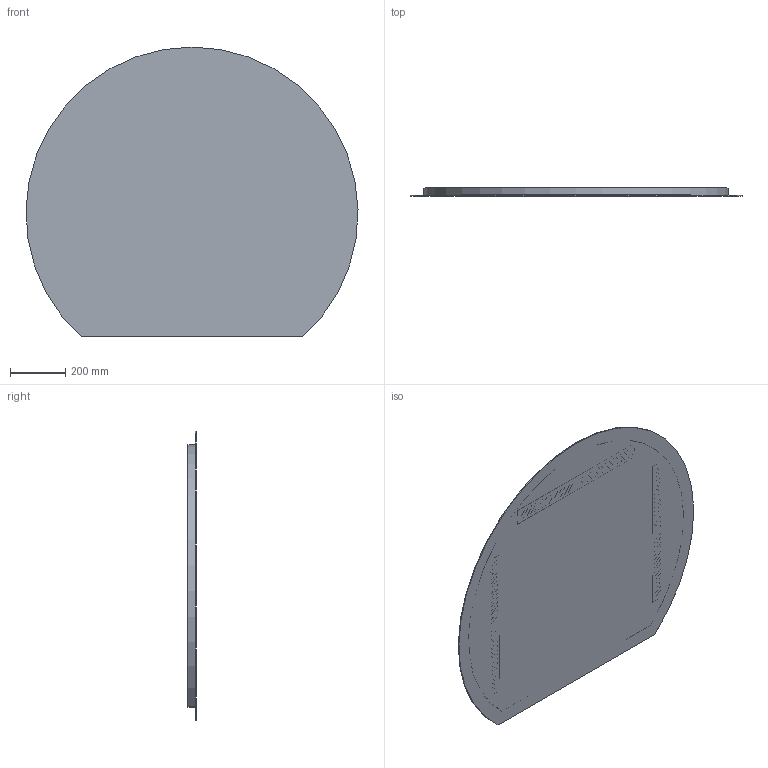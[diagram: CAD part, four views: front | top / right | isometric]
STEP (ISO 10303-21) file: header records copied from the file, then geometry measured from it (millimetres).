
FILE_DESCRIPTION(/* description */ ('Unknown'),/* implementation_level */ '2;1');
FILE_NAME(/* name */ 'Corte',/* time_stamp */ '2026-01-08T14:56:30+01:00',/* author */ ('Mariusz Kirko'),/* organization */ ('Kraft'),/* preprocessor_version */ 'ST-DEVELOPER v19.4',/* originating_system */ 'Solid Edge',/* authorisation */ 'Unknown');
FILE_SCHEMA (('AUTOMOTIVE_DESIGN {1 0 10303 214 3 1 1}'));
Length unit declared in the file: millimetre
Products named in the file (4): Z這瞠nie plus zawieszki; Lustro; Ramka HIPS; 600x26 Corte
Assembly tree (5 placements, depth 2):
  Z這瞠nie plus zawieszki
    Lustro
    Ramka HIPS
    600x26 Corte  x3
Bounding box: 1199.75 x 29 x 1047.21 mm (x, y, z)
Volume: 3477796.1 mm3; surface area: 2627461.7 mm2
Topology: 5 solids, 5 shells, 376 faces, 1098 edges, 732 vertices
Faces by surface type: plane 205, cylinder 171
Entity records: 4573 total; most frequent: DIRECTION 772, CARTESIAN_POINT 768, ORIENTED_EDGE 756, EDGE_CURVE 378, LINE 260, VECTOR 260, AXIS2_PLACEMENT_3D 256, VERTEX_POINT 252
